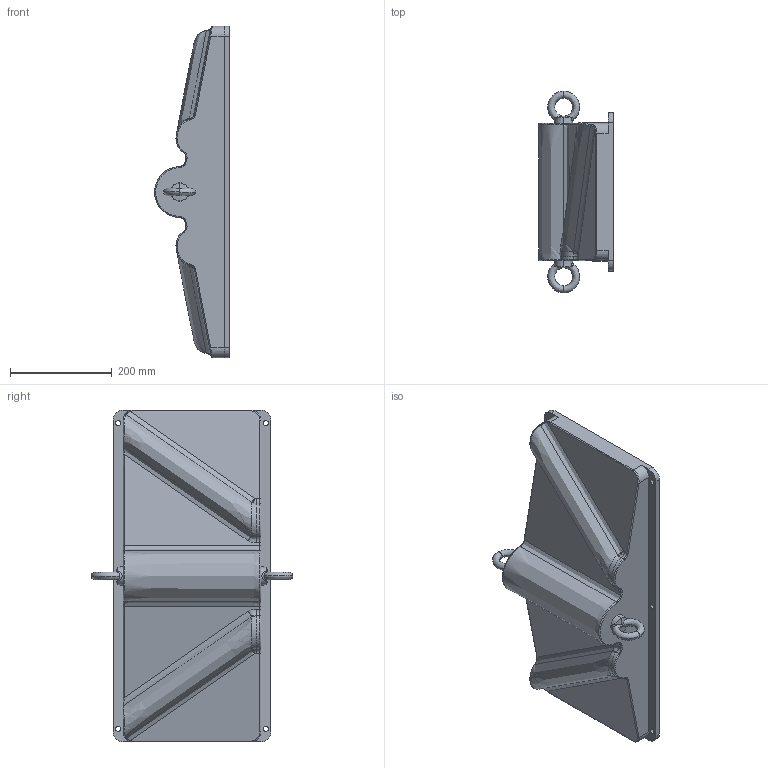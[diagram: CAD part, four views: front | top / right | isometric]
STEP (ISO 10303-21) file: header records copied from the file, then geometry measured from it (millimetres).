
FILE_DESCRIPTION(('CATIA V5 STEP','CAx-IF Rec.Pracs.--- Model Styling and Organization---1.5--- 2016-08-15','CAx-IF Rec.Pracs.---Supplemental Geometry---1.0---2011-11-01','CAx-IF Rec.Pracs.---Representation and Presentation of Product Manufacturing Information (PMI)---4.0---2014-10-13','CAx-IF Rec.Pracs.--- Composite Materials ---3.4---2017-06-13','CAx-IF Rec.Pracs.---Tessellated 3D Geometry---1.0---2015-12-17'),'2;1');
FILE_NAME('Y:\data\Конструкторский отдел\01_Проекты\05_РКК\Корпус переходника среднего из КМ\40_Модели_и_КД\14С49.Б1100-1061\ФЗО\УНМТ.01-077.202.061.000 матрица алюминиевая.stp','2025-10-14T07:34:42+00:00',('none'),('none'),'CATIA Version 5-6 Release 2020 SP5','CATIA V5 STEP AP242 v2','none');
FILE_SCHEMA(('AP242_MANAGED_MODEL_BASED_3D_ENGINEERING_MIM_LF {1 0 10303 442 1 1 4}'));
Length unit declared in the file: millimetre
Products named in the file (5): UNMT.01-077.202.061.000; UNMT.01-077.202.061.001; Рым-болт Втулка; УНМТ.01-077.202.000.001; Рым-болт М16 ГОСТ 4751-73
Assembly tree (5 placements, depth 3):
  UNMT.01-077.202.061.000
    UNMT.01-077.202.061.001
    Рым-болт Втулка  x2
      УНМТ.01-077.202.000.001
      Рым-болт М16 ГОСТ 4751-73
Bounding box: 146.99 x 396 x 651.74 mm (x, y, z)
Volume: 14032979.2 mm3; surface area: 600022.3 mm2
Topology: 5 solids, 5 shells, 188 faces, 484 edges, 298 vertices
Faces by surface type: bspline 61, cylinder 46, cone 42, plane 35, torus 4
Entity records: 21262 total; most frequent: CARTESIAN_POINT 16940, ORIENTED_EDGE 708, DIRECTION 377, COORDINATES_LIST 369, TESSELLATED_CURVE_SET 368, EDGE_CURVE 354, VERTEX_POINT 219, AXIS2_PLACEMENT_3D 183
